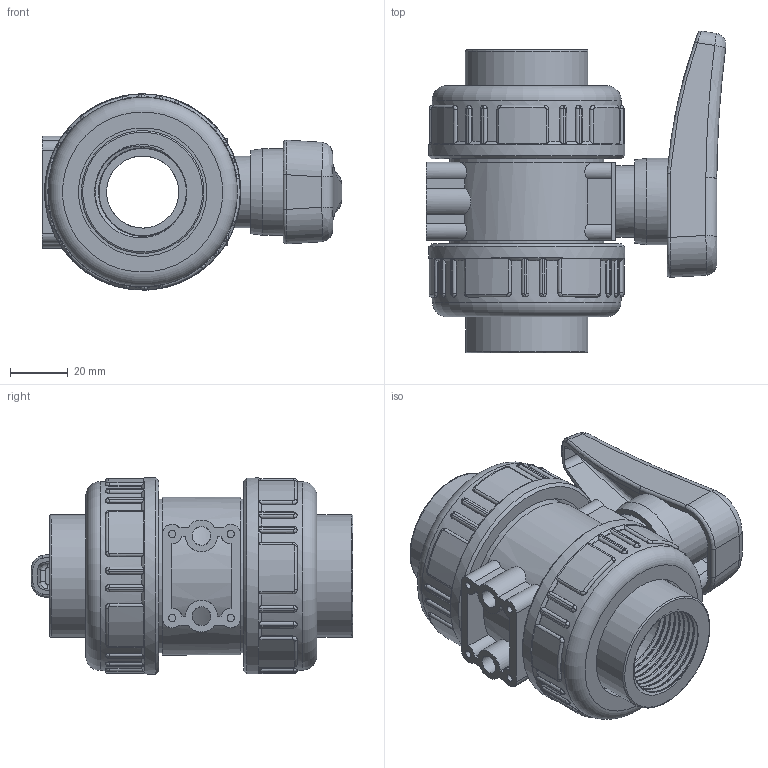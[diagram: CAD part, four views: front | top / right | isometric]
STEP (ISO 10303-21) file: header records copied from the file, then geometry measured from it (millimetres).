
FILE_DESCRIPTION(/* description */ (''),/* implementation_level */ '2;1');
FILE_NAME(/* name */ 'C:\Users\POLYPIPE\Desktop\DATASET INVENTOR\LIBRERIA EFFAST\3D_VALVOLE\3D_VALVOLE A SFERA\3D_BK1\3D_BERBK1E\3D_BERBK1E032D.stp',/* time_stamp */ '2018-01-23T17:16:03+01:00',/* author */ ('POLYPIPE'),/* organization */ (''),/* preprocessor_version */ 'ST-DEVELOPER v16.1',/* originating_system */ 'Autodesk Inventor 2016',/* authorisation */ '');
FILE_SCHEMA (('CONFIG_CONTROL_DESIGN'));
Length unit declared in the file: centimetre
Products named in the file (1): 3D_BERBK1E032D
Bounding box: 103.87 x 111.46 x 67.97 mm (x, y, z)
Volume: 236206.6 mm3; surface area: 72551.7 mm2
Topology: 1 solids, 1 shells, 583 faces, 1505 edges, 953 vertices
Faces by surface type: plane 200, cylinder 190, bspline 172, torus 16, cone 5
Full cylindrical faces by diameter (mm): 2.5 x8, 4 x4, 6.5 x2, 15.8 x1, 24.7 x1, 25 x1, 30 x1, 30.291 x2, 42.5 x2, 44.5 x2, 51 x2, 53.3 x2, 54.7 x1, 56.7 x2, 65.5 x2, 68 x2
Entity records: 68664 total; most frequent: CARTESIAN_POINT 54954, ORIENTED_EDGE 2880, DIRECTION 2412, EDGE_CURVE 1440, VERTEX_POINT 933, AXIS2_PLACEMENT_3D 920, EDGE_LOOP 661, STYLED_ITEM 584
